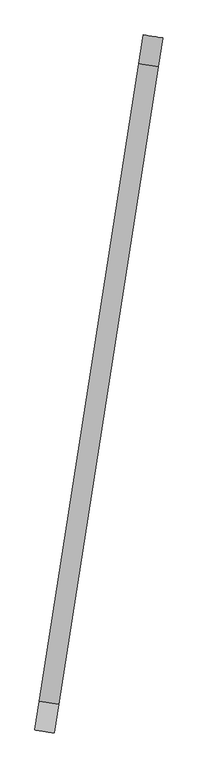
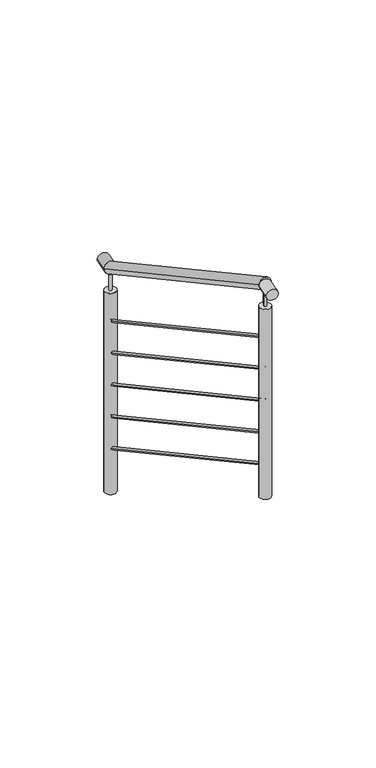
"""IFC4 building model written with IfcOpenShell, lengths in millimetres: railing geometry, Barandal acero inox - escalera."""

from ifc_helpers import new_model, si_unit, point, frame, frame_2d, origin, place, context, project, spatial, circle_curve, ellipse_curve, trimmed, segment, composite_curve, outline, extrude, source, transform, mapped, element, save
from ifc_brep_helpers import plane_surface, cylinder_surface, advanced_brep


def railing_f8493600(model_context):
    return source(origin(), model_context, "Body", "SolidModel", [
        advanced_brep(
        [(-31915.4551141, -66537.7857627, 1254.4335573), (-31865.2611933, -66545.6094645, 1254.4335573), (-32170.3102532, -68172.840228, 2260.5263158), (-32120.1163323, -68180.6639299, 2260.5263158)],
        [
            (0, 1, ellipse_curve(frame((-31890.3581537, -66541.6976136, 1254.4335573), z_axis=(0.15400987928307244, 0.9880693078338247, 0.0), x_axis=(0.0, 0.0, -1.0)), 29.7261002, 25.4)),
            (1, 0, ellipse_curve(frame((-31890.3581537, -66541.6976136, 1254.4335573), z_axis=(0.15400987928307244, 0.9880693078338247, 0.0), x_axis=(0.0, 0.0, -1.0)), 29.7261002, 25.4)),
            (2, 3, ellipse_curve(frame((-32145.2132927, -68176.7520789, 2260.5263158), z_axis=(-0.15400987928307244, -0.9880693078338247, 0.0), x_axis=(0.0, 0.0, -1.0)), 29.7261002, 25.4)),
            (3, 2, ellipse_curve(frame((-32145.2132927, -68176.7520789, 2260.5263158), z_axis=(-0.15400987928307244, -0.9880693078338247, 0.0), x_axis=(0.0, 0.0, -1.0)), 29.7261002, 25.4)),
            (0, 2),
            (3, 1),
        ],
        [
            plane_surface(frame((-31890.3581537, -66541.6976136, 1254.4335573), z_axis=(0.15400987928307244, 0.9880693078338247, 0.0), x_axis=(0.9880693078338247, -0.15400987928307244, 0.0))),
            plane_surface(frame((-32145.2132927, -68176.7520789, 2260.5263158), z_axis=(-0.15400987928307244, -0.9880693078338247, 0.0), x_axis=(0.9880693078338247, -0.15400987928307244, 0.0))),
            cylinder_surface(frame((-31890.3581537, -66541.6976136, 1254.4335573), z_axis=(0.13159650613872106, 0.8442735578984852, -0.5195041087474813), x_axis=(0.9880693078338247, -0.15400987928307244, 0.0)), 25.4),
        ],
        [
            (0, [[1, 2]]),
            (1, [[3, 4]]),
            (2, [[-1, 5, -4, 6]]),
            (2, [[-2, -6, -3, -5]]),
        ],
    ),
        advanced_brep(
        [(-31896.6323938, -66540.7196509, 1004.4335573), (-31884.0839136, -66542.6755763, 1004.4335573), (-32151.4875328, -68175.7741162, 2010.5263158), (-32138.9390526, -68177.7300417, 2010.5263158)],
        [
            (0, 1, ellipse_curve(frame((-31890.3581537, -66541.6976136, 1004.4335573), z_axis=(0.15400987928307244, 0.9880693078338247, 0.0), x_axis=(0.0, 0.0, -1.0)), 7.4315251, 6.35)),
            (1, 0, ellipse_curve(frame((-31890.3581537, -66541.6976136, 1004.4335573), z_axis=(0.15400987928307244, 0.9880693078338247, 0.0), x_axis=(0.0, 0.0, -1.0)), 7.4315251, 6.35)),
            (2, 3, ellipse_curve(frame((-32145.2132927, -68176.7520789, 2010.5263158), z_axis=(-0.15400987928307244, -0.9880693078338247, 0.0), x_axis=(0.0, 0.0, -1.0)), 7.4315251, 6.35)),
            (3, 2, ellipse_curve(frame((-32145.2132927, -68176.7520789, 2010.5263158), z_axis=(-0.15400987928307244, -0.9880693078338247, 0.0), x_axis=(0.0, 0.0, -1.0)), 7.4315251, 6.35)),
            (0, 2),
            (3, 1),
        ],
        [
            plane_surface(frame((-31890.3581537, -66541.6976136, 1004.4335573), z_axis=(0.15400987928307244, 0.9880693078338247, 0.0), x_axis=(0.9880693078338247, -0.15400987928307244, 0.0))),
            plane_surface(frame((-32145.2132927, -68176.7520789, 2010.5263158), z_axis=(-0.15400987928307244, -0.9880693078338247, 0.0), x_axis=(0.9880693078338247, -0.15400987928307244, 0.0))),
            cylinder_surface(frame((-31890.3581537, -66541.6976136, 1004.4335573), z_axis=(0.13159650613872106, 0.8442735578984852, -0.5195041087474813), x_axis=(0.9880693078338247, -0.15400987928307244, 0.0)), 6.35),
        ],
        [
            (0, [[1, 2]]),
            (1, [[3, 4]]),
            (2, [[-1, 5, -4, 6]]),
            (2, [[-2, -6, -3, -5]]),
        ],
    ),
        advanced_brep(
        [(-31896.6323938, -66540.7196509, 854.4335573), (-31884.0839136, -66542.6755763, 854.4335573), (-32151.4875328, -68175.7741162, 1860.5263158), (-32138.9390526, -68177.7300417, 1860.5263158)],
        [
            (0, 1, ellipse_curve(frame((-31890.3581537, -66541.6976136, 854.4335573), z_axis=(0.15400987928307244, 0.9880693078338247, 0.0), x_axis=(0.0, 0.0, -1.0)), 7.4315251, 6.35)),
            (1, 0, ellipse_curve(frame((-31890.3581537, -66541.6976136, 854.4335573), z_axis=(0.15400987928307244, 0.9880693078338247, 0.0), x_axis=(0.0, 0.0, -1.0)), 7.4315251, 6.35)),
            (2, 3, ellipse_curve(frame((-32145.2132927, -68176.7520789, 1860.5263158), z_axis=(-0.15400987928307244, -0.9880693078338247, 0.0), x_axis=(0.0, 0.0, -1.0)), 7.4315251, 6.35)),
            (3, 2, ellipse_curve(frame((-32145.2132927, -68176.7520789, 1860.5263158), z_axis=(-0.15400987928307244, -0.9880693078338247, 0.0), x_axis=(0.0, 0.0, -1.0)), 7.4315251, 6.35)),
            (0, 2),
            (3, 1),
        ],
        [
            plane_surface(frame((-31890.3581537, -66541.6976136, 854.4335573), z_axis=(0.15400987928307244, 0.9880693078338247, 0.0), x_axis=(0.9880693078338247, -0.15400987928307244, 0.0))),
            plane_surface(frame((-32145.2132927, -68176.7520789, 1860.5263158), z_axis=(-0.15400987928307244, -0.9880693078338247, 0.0), x_axis=(0.9880693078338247, -0.15400987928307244, 0.0))),
            cylinder_surface(frame((-31890.3581537, -66541.6976136, 854.4335573), z_axis=(0.13159650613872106, 0.8442735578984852, -0.5195041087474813), x_axis=(0.9880693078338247, -0.15400987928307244, 0.0)), 6.35),
        ],
        [
            (0, [[1, 2]]),
            (1, [[3, 4]]),
            (2, [[-1, 5, -4, 6]]),
            (2, [[-2, -6, -3, -5]]),
        ],
    ),
        advanced_brep(
        [(-31896.6323938, -66540.7196509, 704.4335573), (-31884.0839136, -66542.6755763, 704.4335573), (-32151.4875328, -68175.7741162, 1710.5263158), (-32138.9390526, -68177.7300417, 1710.5263158)],
        [
            (0, 1, ellipse_curve(frame((-31890.3581537, -66541.6976136, 704.4335573), z_axis=(0.15400987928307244, 0.9880693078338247, 0.0), x_axis=(0.0, 0.0, -1.0)), 7.4315251, 6.35)),
            (1, 0, ellipse_curve(frame((-31890.3581537, -66541.6976136, 704.4335573), z_axis=(0.15400987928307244, 0.9880693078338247, 0.0), x_axis=(0.0, 0.0, -1.0)), 7.4315251, 6.35)),
            (2, 3, ellipse_curve(frame((-32145.2132927, -68176.7520789, 1710.5263158), z_axis=(-0.15400987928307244, -0.9880693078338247, 0.0), x_axis=(0.0, 0.0, -1.0)), 7.4315251, 6.35)),
            (3, 2, ellipse_curve(frame((-32145.2132927, -68176.7520789, 1710.5263158), z_axis=(-0.15400987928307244, -0.9880693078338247, 0.0), x_axis=(0.0, 0.0, -1.0)), 7.4315251, 6.35)),
            (0, 2),
            (3, 1),
        ],
        [
            plane_surface(frame((-31890.3581537, -66541.6976136, 704.4335573), z_axis=(0.15400987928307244, 0.9880693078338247, 0.0), x_axis=(0.9880693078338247, -0.15400987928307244, 0.0))),
            plane_surface(frame((-32145.2132927, -68176.7520789, 1710.5263158), z_axis=(-0.15400987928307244, -0.9880693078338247, 0.0), x_axis=(0.9880693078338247, -0.15400987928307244, 0.0))),
            cylinder_surface(frame((-31890.3581537, -66541.6976136, 704.4335573), z_axis=(0.13159650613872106, 0.8442735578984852, -0.5195041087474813), x_axis=(0.9880693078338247, -0.15400987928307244, 0.0)), 6.35),
        ],
        [
            (0, [[1, 2]]),
            (1, [[3, 4]]),
            (2, [[-1, 5, -4, 6]]),
            (2, [[-2, -6, -3, -5]]),
        ],
    ),
        advanced_brep(
        [(-31896.6323938, -66540.7196509, 554.4335573), (-31884.0839136, -66542.6755763, 554.4335573), (-32151.4875328, -68175.7741162, 1560.5263158), (-32138.9390526, -68177.7300417, 1560.5263158)],
        [
            (0, 1, ellipse_curve(frame((-31890.3581537, -66541.6976136, 554.4335573), z_axis=(0.15400987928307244, 0.9880693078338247, 0.0), x_axis=(0.0, 0.0, -1.0)), 7.4315251, 6.35)),
            (1, 0, ellipse_curve(frame((-31890.3581537, -66541.6976136, 554.4335573), z_axis=(0.15400987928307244, 0.9880693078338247, 0.0), x_axis=(0.0, 0.0, -1.0)), 7.4315251, 6.35)),
            (2, 3, ellipse_curve(frame((-32145.2132927, -68176.7520789, 1560.5263158), z_axis=(-0.15400987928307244, -0.9880693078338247, 0.0), x_axis=(0.0, 0.0, -1.0)), 7.4315251, 6.35)),
            (3, 2, ellipse_curve(frame((-32145.2132927, -68176.7520789, 1560.5263158), z_axis=(-0.15400987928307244, -0.9880693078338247, 0.0), x_axis=(0.0, 0.0, -1.0)), 7.4315251, 6.35)),
            (0, 2),
            (3, 1),
        ],
        [
            plane_surface(frame((-31890.3581537, -66541.6976136, 554.4335573), z_axis=(0.15400987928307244, 0.9880693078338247, 0.0), x_axis=(0.9880693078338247, -0.15400987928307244, 0.0))),
            plane_surface(frame((-32145.2132927, -68176.7520789, 1560.5263158), z_axis=(-0.15400987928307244, -0.9880693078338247, 0.0), x_axis=(0.9880693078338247, -0.15400987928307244, 0.0))),
            cylinder_surface(frame((-31890.3581537, -66541.6976136, 554.4335573), z_axis=(0.13159650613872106, 0.8442735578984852, -0.5195041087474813), x_axis=(0.9880693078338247, -0.15400987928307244, 0.0)), 6.35),
        ],
        [
            (0, [[1, 2]]),
            (1, [[3, 4]]),
            (2, [[-1, 5, -4, 6]]),
            (2, [[-2, -6, -3, -5]]),
        ],
    ),
        advanced_brep(
        [(-31896.6323938, -66540.7196509, 404.4335573), (-31884.0839136, -66542.6755763, 404.4335573), (-32151.4875328, -68175.7741162, 1410.5263158), (-32138.9390526, -68177.7300417, 1410.5263158)],
        [
            (0, 1, ellipse_curve(frame((-31890.3581537, -66541.6976136, 404.4335573), z_axis=(0.15400987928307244, 0.9880693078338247, 0.0), x_axis=(0.0, 0.0, -1.0)), 7.4315251, 6.35)),
            (1, 0, ellipse_curve(frame((-31890.3581537, -66541.6976136, 404.4335573), z_axis=(0.15400987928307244, 0.9880693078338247, 0.0), x_axis=(0.0, 0.0, -1.0)), 7.4315251, 6.35)),
            (2, 3, ellipse_curve(frame((-32145.2132927, -68176.7520789, 1410.5263158), z_axis=(-0.15400987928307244, -0.9880693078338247, 0.0), x_axis=(0.0, 0.0, -1.0)), 7.4315251, 6.35)),
            (3, 2, ellipse_curve(frame((-32145.2132927, -68176.7520789, 1410.5263158), z_axis=(-0.15400987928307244, -0.9880693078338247, 0.0), x_axis=(0.0, 0.0, -1.0)), 7.4315251, 6.35)),
            (0, 2),
            (3, 1),
        ],
        [
            plane_surface(frame((-31890.3581537, -66541.6976136, 404.4335573), z_axis=(0.15400987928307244, 0.9880693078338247, 0.0), x_axis=(0.9880693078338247, -0.15400987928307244, 0.0))),
            plane_surface(frame((-32145.2132927, -68176.7520789, 1410.5263158), z_axis=(-0.15400987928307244, -0.9880693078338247, 0.0), x_axis=(0.9880693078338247, -0.15400987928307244, 0.0))),
            cylinder_surface(frame((-31890.3581537, -66541.6976136, 404.4335573), z_axis=(0.13159650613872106, 0.8442735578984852, -0.5195041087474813), x_axis=(0.9880693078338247, -0.15400987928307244, 0.0)), 6.35),
        ],
        [
            (0, [[1, 2]]),
            (1, [[3, 4]]),
            (2, [[-1, 5, -4, 6]]),
            (2, [[-2, -6, -3, -5]]),
        ],
    ),
        extrude(outline(composite_curve([segment(trimmed(circle_curve(frame_2d((0.0, 25.4)), 25.4), [point((0.0, 50.8))], [point((0.0, 0.0))], False, "CARTESIAN"), True, "CONTINUOUS"), segment(trimmed(circle_curve(frame_2d((0.0, 25.4)), 25.4), [point((0.0, 0.0))], [point((0.0, 50.8))], False, "CARTESIAN"), True, "CONTINUOUS")], self_intersect=False)), frame((-32181.8609941, -68246.9454261, 2256.2002155), z_axis=(0.15400987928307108, 0.9880693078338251, 0.0), x_axis=(0.0, 0.0, 1.0)), (0.0, 0.0, 1.0), 75.0),
        extrude(outline(composite_curve([segment(trimmed(circle_curve(frame_2d((-32145.2132927, -68176.7520789)), 6.35), [point((-32138.9390526, -68177.7300417))], [point((-32151.4875328, -68175.7741162))], False, "CARTESIAN"), True, "CONTINUOUS"), segment(trimmed(circle_curve(frame_2d((-32145.2132927, -68176.7520789)), 6.35), [point((-32151.4875328, -68175.7741162))], [point((-32138.9390526, -68177.7300417))], False, "CARTESIAN"), True, "CONTINUOUS")], self_intersect=False)), frame((0.0, 0.0, 2155.8002155), z_axis=(0.0, 0.0, 1.0), x_axis=(1.0, 0.0, 0.0)), (0.0, 0.0, 1.0), 75.0),
        extrude(outline(composite_curve([segment(trimmed(circle_curve(frame_2d((-32145.2132927, -68176.7520789)), 25.4), [point((-32120.1163323, -68180.6639299))], [point((-32170.3102532, -68172.840228))], False, "CARTESIAN"), True, "CONTINUOUS"), segment(trimmed(circle_curve(frame_2d((-32145.2132927, -68176.7520789)), 25.4), [point((-32170.3102532, -68172.840228))], [point((-32120.1163323, -68180.6639299))], False, "CARTESIAN"), True, "CONTINUOUS")], self_intersect=False)), frame((0.0, 0.0, 1260.5263158), z_axis=(0.0, 0.0, 1.0), x_axis=(1.0, 0.0, 0.0)), (0.0, 0.0, 1.0), 895.2738998),
        extrude(outline(composite_curve([segment(trimmed(circle_curve(frame_2d((0.0, 25.4)), 25.4), [point((0.0, 50.8))], [point((0.0, 0.0))], False, "CARTESIAN"), True, "CONTINUOUS"), segment(trimmed(circle_curve(frame_2d((0.0, 25.4)), 25.4), [point((0.0, 0.0))], [point((0.0, 50.8))], False, "CARTESIAN"), True, "CONTINUOUS")], self_intersect=False)), frame((-31915.4551141, -66537.7857627, 1250.1074571), z_axis=(0.15400987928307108, 0.9880693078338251, 0.0), x_axis=(0.0, 0.0, 1.0)), (0.0, 0.0, 1.0), 75.0),
        extrude(outline(composite_curve([segment(trimmed(circle_curve(frame_2d((-31890.3581537, -66541.6976136)), 6.35), [point((-31884.0839136, -66542.6755763))], [point((-31896.6323938, -66540.7196509))], False, "CARTESIAN"), True, "CONTINUOUS"), segment(trimmed(circle_curve(frame_2d((-31890.3581537, -66541.6976136)), 6.35), [point((-31896.6323938, -66540.7196509))], [point((-31884.0839136, -66542.6755763))], False, "CARTESIAN"), True, "CONTINUOUS")], self_intersect=False)), frame((0.0, 0.0, 1149.7074571), z_axis=(0.0, 0.0, 1.0), x_axis=(1.0, 0.0, 0.0)), (0.0, 0.0, 1.0), 75.0),
        extrude(outline(composite_curve([segment(trimmed(circle_curve(frame_2d((-31890.3581537, -66541.6976136)), 25.4), [point((-31865.2611933, -66545.6094645))], [point((-31915.4551141, -66537.7857627))], False, "CARTESIAN"), True, "CONTINUOUS"), segment(trimmed(circle_curve(frame_2d((-31890.3581537, -66541.6976136)), 25.4), [point((-31915.4551141, -66537.7857627))], [point((-31865.2611933, -66545.6094645))], False, "CARTESIAN"), True, "CONTINUOUS")], self_intersect=False)), frame((0.0, 0.0, 202.6315789), z_axis=(0.0, 0.0, 1.0), x_axis=(1.0, 0.0, 0.0)), (0.0, 0.0, 1.0), 947.0758781),
    ])


if __name__ == "__main__":
    model = new_model("IFC4")
    model_context = context("Model", 3, world=origin())
    ifc_project = project(units=[si_unit("LENGTHUNIT", "METRE", prefix="MILLI")], contexts=[model_context])
    site = spatial("IfcSite", under=ifc_project)
    building = spatial("IfcBuilding", under=site)
    placement = place(None, origin())
    railing_shape = railing_f8493600(model_context)
    element("IfcRailing", 1, ObjectType="Barandal acero inox - escalera", at=placement, inside=building, context=model_context, shape_type="MappedRepresentation", body=[
        mapped(railing_shape, transform((0.0, 0.0, 0.0), x_axis=(1.0, 0.0, 0.0), y_axis=(0.0, 1.0, 0.0), z_axis=(0.0, 0.0, 1.0))),
    ])
    save(model, "model.ifc")
